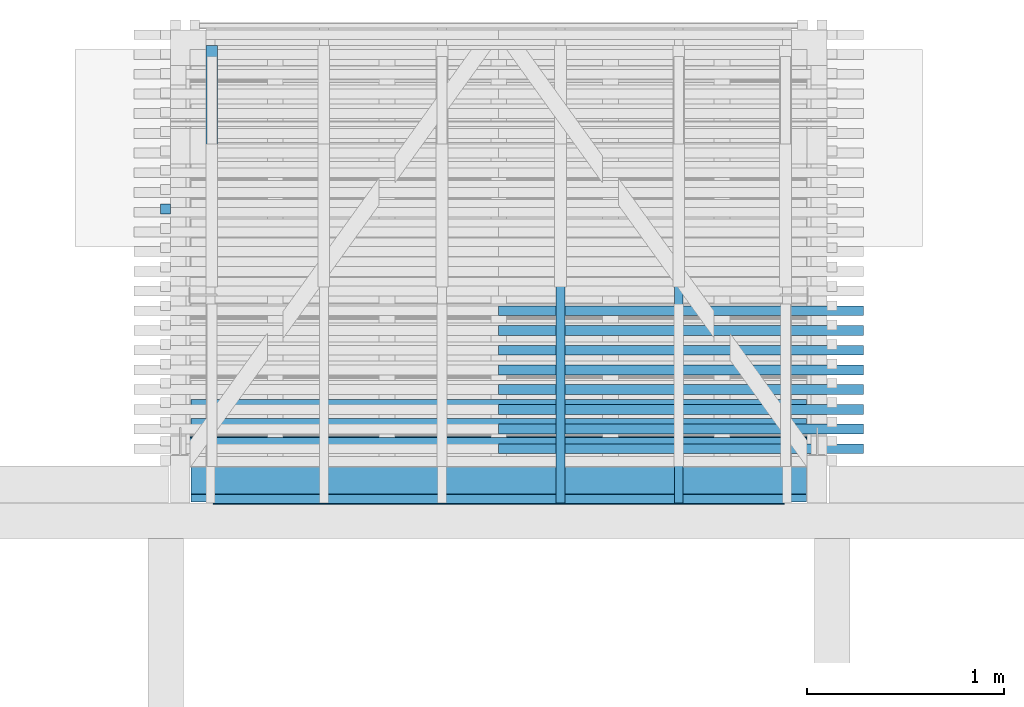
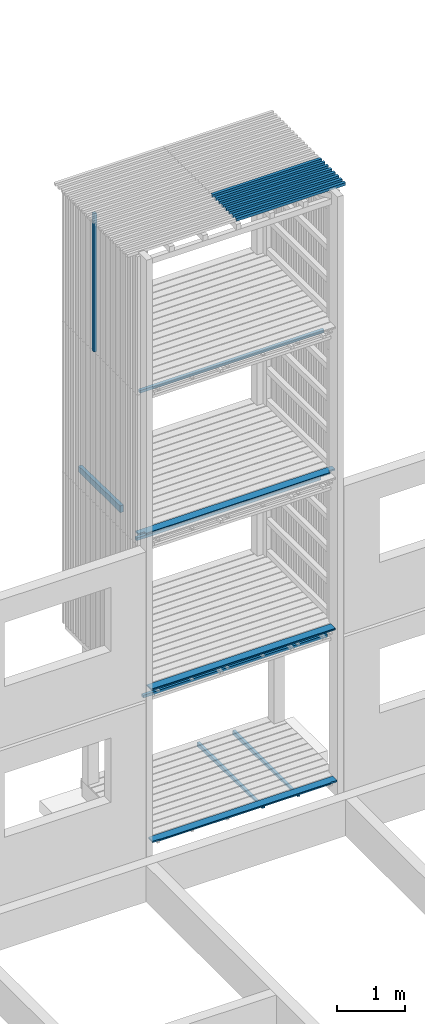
# One storey, part 38 of 182: 18 beams.
"""IFC2X3 building model written with IfcOpenShell, lengths in metres."""

from ifc_helpers import new_model, si_unit, frame, origin, place, context, project, spatial, faceted_brep, element, save


model = new_model("IFC2X3")

# Units and contexts
model_context = context("Model", 3, precision=1e-06, world=origin())
ifc_project = project(units=[si_unit("LENGTHUNIT", "METRE"), si_unit("PLANEANGLEUNIT", "RADIAN")], contexts=[model_context])

# Site, building, storey
site = spatial("IfcSite", under=ifc_project, CompositionType="ELEMENT")
building = spatial("IfcBuilding", under=site, CompositionType="ELEMENT")
storey = spatial("IfcBuildingStorey", under=building, Name="vs", CompositionType="ELEMENT", Elevation=-0.85)

# Beams
placement = place(None, origin())
beam_1_placement = place(placement, frame((13.299197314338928, 11.96144133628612, 7.974999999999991), z_axis=(1.0, 0.0, 0.0), x_axis=(0.0, 0.0, 1.0)))
element("IfcBeam", 1, at=beam_1_placement, inside=storey, Name="Bardage", context=model_context, shape_type="Brep", body=[
    faceted_brep([(0.0, -0.024999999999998, 0.025000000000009), (0.0, 0.024999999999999, 0.025000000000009), (0.0, 0.024999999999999, -0.025000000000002), (0.0, -0.024999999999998, -0.025000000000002), (2.479999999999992, 0.024999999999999, -0.025000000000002), (2.479999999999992, 0.024999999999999, 0.025000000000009), (2.479999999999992, -0.024999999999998, 0.025000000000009), (2.479999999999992, -0.024999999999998, -0.025000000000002), (0.0, 0.024999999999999, 0.025000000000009), (0.0, -0.024999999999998, 0.025000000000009), (2.479999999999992, -0.024999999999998, 0.025000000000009), (2.479999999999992, 0.024999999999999, 0.025000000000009), (0.0, 0.024999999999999, -0.025000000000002), (0.0, 0.024999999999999, 0.025000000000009), (2.479999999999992, 0.024999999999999, 0.025000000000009), (2.479999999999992, 0.024999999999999, -0.025000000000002), (0.0, -0.024999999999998, -0.025000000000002), (0.0, 0.024999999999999, -0.025000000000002), (2.479999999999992, 0.024999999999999, -0.025000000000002), (2.479999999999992, -0.024999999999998, -0.025000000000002), (2.479999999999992, -0.024999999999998, 0.025000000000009), (0.0, -0.024999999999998, 0.025000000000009), (0.0, -0.024999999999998, -0.025000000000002), (2.479999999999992, -0.024999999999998, -0.025000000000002)], [[[0, 1, 2, 3]], [[4, 5, 6, 7]], [[8, 9, 10, 11]], [[12, 13, 14, 15]], [[16, 17, 18, 19]], [[20, 21, 22, 23]]]),
])
beam_2_placement = place(placement, frame((13.534197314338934, 11.565077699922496, 5.304249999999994), z_axis=(0.0, 0.0, 1.0), x_axis=(0.0, 1.0, 0.0)))
element("IfcBeam", 2, at=beam_2_placement, inside=storey, Name="Solive", context=model_context, shape_type="Brep", body=[
    faceted_brep([(0.0, -0.030000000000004, -0.061849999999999), (1.225000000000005, -0.030000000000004, -0.061849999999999), (1.225000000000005, -0.030000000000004, 0.03735), (0.0, -0.030000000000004, 0.06185), (0.0, 0.029999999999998, -0.061849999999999), (1.225000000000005, 0.029999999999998, -0.061849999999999), (1.225000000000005, -0.030000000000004, -0.061849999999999), (0.0, -0.030000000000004, -0.061849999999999), (0.0, 0.029999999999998, 0.061850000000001), (0.0, 0.029999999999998, -0.061849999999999), (0.0, -0.030000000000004, -0.061849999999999), (0.0, -0.030000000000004, 0.06185), (1.225000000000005, 0.029999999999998, -0.061849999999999), (0.0, 0.029999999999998, -0.061849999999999), (0.0, 0.029999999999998, 0.061850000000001), (1.225000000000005, 0.029999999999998, 0.03735), (1.225000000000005, -0.030000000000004, 0.03735), (1.225000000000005, -0.030000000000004, -0.061849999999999), (1.225000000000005, 0.029999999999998, -0.061849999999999), (1.225000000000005, 0.029999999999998, 0.03735), (0.0, -0.030000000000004, 0.06185), (1.225000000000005, -0.030000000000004, 0.03735), (1.225000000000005, 0.029999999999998, 0.03735), (0.0, 0.029999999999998, 0.061850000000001)], [[[0, 1, 2, 3]], [[4, 5, 6, 7]], [[8, 9, 10, 11]], [[12, 13, 14, 15]], [[16, 17, 18, 19]], [[20, 21, 22, 23]]]),
])
beam_3_placement = place(placement, frame((16.839197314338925, 10.945077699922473, 10.47999999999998), z_axis=(0.0, 0.0, 1.0), x_axis=(-1.0, 2e-15, 0.0)))
element("IfcBeam", 3, at=beam_3_placement, inside=storey, Name="Bardage", context=model_context, shape_type="Brep", body=[
    faceted_brep([(-3e-15, 0.024999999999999, 0.025000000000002), (-3e-15, -0.025000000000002, 0.025000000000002), (1.849999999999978, -0.024999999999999, 0.025000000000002), (1.849999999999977, 0.025000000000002, 0.025000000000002), (1.849999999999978, -0.024999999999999, 0.025000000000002), (-3e-15, -0.025000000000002, 0.025000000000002), (-3e-15, -0.025000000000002, -0.024999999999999), (1.849999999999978, -0.024999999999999, -0.024999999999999), (-3e-15, -0.025000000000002, 0.025000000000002), (-3e-15, 0.024999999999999, 0.025000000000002), (-3e-15, 0.024999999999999, -0.024999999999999), (-3e-15, -0.025000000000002, -0.024999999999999), (-3e-15, 0.024999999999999, -0.024999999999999), (-3e-15, 0.024999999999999, 0.025000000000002), (1.849999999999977, 0.025000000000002, 0.025000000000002), (1.849999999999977, 0.025000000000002, -0.024999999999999), (1.849999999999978, -0.024999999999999, -0.024999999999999), (-3e-15, -0.025000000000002, -0.024999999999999), (-3e-15, 0.024999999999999, -0.024999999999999), (1.849999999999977, 0.025000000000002, -0.024999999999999), (1.849999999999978, -0.024999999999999, 0.025000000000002), (1.849999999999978, -0.024999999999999, -0.024999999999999), (1.849999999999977, 0.025000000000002, -0.024999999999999), (1.849999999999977, 0.025000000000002, 0.025000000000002)], [[[0, 1, 2, 3]], [[4, 5, 6, 7]], [[8, 9, 10, 11]], [[12, 13, 14, 15]], [[16, 17, 18, 19]], [[20, 21, 22, 23]]]),
])
beam_4_placement = place(placement, frame((16.839197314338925, 11.445077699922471, 10.47999999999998), z_axis=(0.0, 0.0, 1.0), x_axis=(-1.0, 2e-15, 0.0)))
element("IfcBeam", 4, at=beam_4_placement, inside=storey, Name="Bardage", context=model_context, shape_type="Brep", body=[
    faceted_brep([(-3e-15, 0.024999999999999, 0.025000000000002), (-3e-15, -0.025000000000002, 0.025000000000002), (1.849999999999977, -0.024999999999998, 0.025000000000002), (1.849999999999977, 0.025000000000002, 0.025000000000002), (1.849999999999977, -0.024999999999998, 0.025000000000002), (-3e-15, -0.025000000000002, 0.025000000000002), (-3e-15, -0.025000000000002, -0.024999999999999), (1.849999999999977, -0.024999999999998, -0.024999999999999), (-3e-15, -0.025000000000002, 0.025000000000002), (-3e-15, 0.024999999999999, 0.025000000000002), (-3e-15, 0.024999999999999, -0.024999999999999), (-3e-15, -0.025000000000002, -0.024999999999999), (-3e-15, 0.024999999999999, -0.024999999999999), (-3e-15, 0.024999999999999, 0.025000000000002), (1.849999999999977, 0.025000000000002, 0.025000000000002), (1.849999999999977, 0.025000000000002, -0.024999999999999), (1.849999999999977, -0.024999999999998, -0.024999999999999), (-3e-15, -0.025000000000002, -0.024999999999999), (-3e-15, 0.024999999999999, -0.024999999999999), (1.849999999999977, 0.025000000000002, -0.024999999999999), (1.849999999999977, -0.024999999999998, 0.025000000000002), (1.849999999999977, -0.024999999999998, -0.024999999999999), (1.849999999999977, 0.025000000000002, -0.024999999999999), (1.849999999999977, 0.025000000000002, 0.025000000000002)], [[[0, 1, 2, 3]], [[4, 5, 6, 7]], [[8, 9, 10, 11]], [[12, 13, 14, 15]], [[16, 17, 18, 19]], [[20, 21, 22, 23]]]),
])
beam_5_placement = place(placement, frame((16.839197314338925, 11.345077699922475, 10.47999999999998), z_axis=(0.0, 0.0, 1.0), x_axis=(-1.0, 0.0, 0.0)))
element("IfcBeam", 5, at=beam_5_placement, inside=storey, Name="Bardage", context=model_context, shape_type="Brep", body=[
    faceted_brep([(-3e-15, 0.025000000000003, 0.025000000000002), (-3e-15, -0.024999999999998, 0.025000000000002), (1.849999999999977, -0.024999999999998, 0.025000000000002), (1.849999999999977, 0.024999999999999, 0.025000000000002), (1.849999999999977, -0.024999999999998, 0.025000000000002), (-3e-15, -0.024999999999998, 0.025000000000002), (-3e-15, -0.024999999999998, -0.024999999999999), (1.849999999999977, -0.024999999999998, -0.024999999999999), (-3e-15, -0.024999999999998, 0.025000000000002), (-3e-15, 0.025000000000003, 0.025000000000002), (-3e-15, 0.025000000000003, -0.024999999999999), (-3e-15, -0.024999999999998, -0.024999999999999), (-3e-15, 0.025000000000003, -0.024999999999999), (-3e-15, 0.025000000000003, 0.025000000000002), (1.849999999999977, 0.024999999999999, 0.025000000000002), (1.849999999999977, 0.024999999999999, -0.024999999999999), (1.849999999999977, -0.024999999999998, -0.024999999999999), (-3e-15, -0.024999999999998, -0.024999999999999), (-3e-15, 0.025000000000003, -0.024999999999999), (1.849999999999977, 0.024999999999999, -0.024999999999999), (1.849999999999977, -0.024999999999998, 0.025000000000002), (1.849999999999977, -0.024999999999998, -0.024999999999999), (1.849999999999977, 0.024999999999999, -0.024999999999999), (1.849999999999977, 0.024999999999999, 0.025000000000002)], [[[0, 1, 2, 3]], [[4, 5, 6, 7]], [[8, 9, 10, 11]], [[12, 13, 14, 15]], [[16, 17, 18, 19]], [[20, 21, 22, 23]]]),
])
beam_6_placement = place(placement, frame((16.839197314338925, 11.045077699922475, 10.47999999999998), z_axis=(0.0, 0.0, 1.0), x_axis=(-1.0, 0.0, 0.0)))
element("IfcBeam", 6, at=beam_6_placement, inside=storey, Name="Bardage", context=model_context, shape_type="Brep", body=[
    faceted_brep([(-3e-15, 0.025000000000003, 0.025000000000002), (-3e-15, -0.024999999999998, 0.025000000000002), (1.849999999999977, -0.025000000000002, 0.025000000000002), (1.849999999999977, 0.025000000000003, 0.025000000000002), (1.849999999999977, -0.025000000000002, 0.025000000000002), (-3e-15, -0.024999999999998, 0.025000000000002), (-3e-15, -0.024999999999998, -0.024999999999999), (1.849999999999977, -0.025000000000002, -0.024999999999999), (-3e-15, -0.024999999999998, 0.025000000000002), (-3e-15, 0.025000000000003, 0.025000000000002), (-3e-15, 0.025000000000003, -0.024999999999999), (-3e-15, -0.024999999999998, -0.024999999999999), (-3e-15, 0.025000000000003, -0.024999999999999), (-3e-15, 0.025000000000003, 0.025000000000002), (1.849999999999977, 0.025000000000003, 0.025000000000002), (1.849999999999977, 0.025000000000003, -0.024999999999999), (1.849999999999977, -0.025000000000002, -0.024999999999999), (-3e-15, -0.024999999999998, -0.024999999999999), (-3e-15, 0.025000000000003, -0.024999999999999), (1.849999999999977, 0.025000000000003, -0.024999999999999), (1.849999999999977, -0.025000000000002, 0.025000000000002), (1.849999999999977, -0.025000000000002, -0.024999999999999), (1.849999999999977, 0.025000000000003, -0.024999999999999), (1.849999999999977, 0.025000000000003, 0.025000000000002)], [[[0, 1, 2, 3]], [[4, 5, 6, 7]], [[8, 9, 10, 11]], [[12, 13, 14, 15]], [[16, 17, 18, 19]], [[20, 21, 22, 23]]]),
])
beam_7_placement = place(placement, frame((16.839197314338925, 11.245077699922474, 10.47999999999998), z_axis=(0.0, 0.0, 1.0), x_axis=(-1.0, 0.0, 0.0)))
element("IfcBeam", 7, at=beam_7_placement, inside=storey, Name="Bardage", context=model_context, shape_type="Brep", body=[
    faceted_brep([(-3e-15, 0.024999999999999, 0.025000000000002), (-3e-15, -0.024999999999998, 0.025000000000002), (1.849999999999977, -0.024999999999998, 0.025000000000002), (1.849999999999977, 0.024999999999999, 0.025000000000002), (1.849999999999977, -0.024999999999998, 0.025000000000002), (-3e-15, -0.024999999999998, 0.025000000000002), (-3e-15, -0.024999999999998, -0.024999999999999), (1.849999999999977, -0.024999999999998, -0.024999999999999), (-3e-15, -0.024999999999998, 0.025000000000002), (-3e-15, 0.024999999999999, 0.025000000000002), (-3e-15, 0.024999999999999, -0.024999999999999), (-3e-15, -0.024999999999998, -0.024999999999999), (-3e-15, 0.024999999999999, -0.024999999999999), (-3e-15, 0.024999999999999, 0.025000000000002), (1.849999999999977, 0.024999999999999, 0.025000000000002), (1.849999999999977, 0.024999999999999, -0.024999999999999), (1.849999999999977, -0.024999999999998, -0.024999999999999), (-3e-15, -0.024999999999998, -0.024999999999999), (-3e-15, 0.024999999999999, -0.024999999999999), (1.849999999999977, 0.024999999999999, -0.024999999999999), (1.849999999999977, -0.024999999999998, 0.025000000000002), (1.849999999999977, -0.024999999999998, -0.024999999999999), (1.849999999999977, 0.024999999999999, -0.024999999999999), (1.849999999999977, 0.024999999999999, 0.025000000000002)], [[[0, 1, 2, 3]], [[4, 5, 6, 7]], [[8, 9, 10, 11]], [[12, 13, 14, 15]], [[16, 17, 18, 19]], [[20, 21, 22, 23]]]),
])
beam_8_placement = place(placement, frame((15.302197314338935, 10.4700776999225, -0.015599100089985), z_axis=(0.0, 0.0, 1.0), x_axis=(0.0, 1.0, 0.0)))
element("IfcBeam", 8, at=beam_8_placement, inside=storey, Name="Calage", context=model_context, shape_type="Brep", body=[
    faceted_brep([(0.0, 0.02249999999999, 0.002600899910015), (1.91000000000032, 0.02249999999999, -0.035599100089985), (1.91000000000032, -0.022499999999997, -0.035599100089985), (0.0, -0.022499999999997, 0.002600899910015), (0.0, -0.022499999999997, 0.035599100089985), (0.0, 0.02249999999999, 0.035599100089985), (0.0, 0.02249999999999, 0.002600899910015), (0.0, -0.022499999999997, 0.002600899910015), (0.0, 0.02249999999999, 0.035599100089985), (0.0, -0.022499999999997, 0.035599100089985), (1.91000000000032, -0.022499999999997, 0.035599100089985), (1.91000000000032, 0.02249999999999, 0.035599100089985), (0.0, 0.02249999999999, 0.002600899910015), (0.0, 0.02249999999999, 0.035599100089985), (1.91000000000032, 0.02249999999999, 0.035599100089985), (1.91000000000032, 0.02249999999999, -0.035599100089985), (1.91000000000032, 0.02249999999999, -0.035599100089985), (1.91000000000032, 0.02249999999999, 0.035599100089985), (1.91000000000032, -0.022499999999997, 0.035599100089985), (1.91000000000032, -0.022499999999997, -0.035599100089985), (1.91000000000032, -0.022499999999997, -0.035599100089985), (1.91000000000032, -0.022499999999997, 0.035599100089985), (0.0, -0.022499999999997, 0.035599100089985), (0.0, -0.022499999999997, 0.002600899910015)], [[[0, 1, 2, 3]], [[4, 5, 6, 7]], [[8, 9, 10, 11]], [[12, 13, 14, 15]], [[16, 17, 18, 19]], [[20, 21, 22, 23]]]),
])
beam_9_placement = place(placement, frame((15.90219731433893, 10.4700776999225, -0.015599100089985), z_axis=(0.0, 0.0, 1.0), x_axis=(0.0, 1.0, 0.0)))
element("IfcBeam", 9, at=beam_9_placement, inside=storey, Name="Calage", context=model_context, shape_type="Brep", body=[
    faceted_brep([(0.0, 0.022499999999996, 0.002600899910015), (1.91000000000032, 0.022499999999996, -0.035599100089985), (1.91000000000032, -0.022500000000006, -0.035599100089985), (0.0, -0.022500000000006, 0.002600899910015), (0.0, -0.022500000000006, 0.035599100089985), (0.0, 0.022499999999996, 0.035599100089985), (0.0, 0.022499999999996, 0.002600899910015), (0.0, -0.022500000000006, 0.002600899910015), (0.0, 0.022499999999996, 0.035599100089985), (0.0, -0.022500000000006, 0.035599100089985), (1.91000000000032, -0.022500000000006, 0.035599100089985), (1.91000000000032, 0.022499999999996, 0.035599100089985), (0.0, 0.022499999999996, 0.002600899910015), (0.0, 0.022499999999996, 0.035599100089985), (1.91000000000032, 0.022499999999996, 0.035599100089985), (1.91000000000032, 0.022499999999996, -0.035599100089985), (1.91000000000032, 0.022499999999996, -0.035599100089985), (1.91000000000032, 0.022499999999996, 0.035599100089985), (1.91000000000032, -0.022500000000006, 0.035599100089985), (1.91000000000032, -0.022500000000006, -0.035599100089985), (1.91000000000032, -0.022500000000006, -0.035599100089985), (1.91000000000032, -0.022500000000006, 0.035599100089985), (0.0, -0.022500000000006, 0.035599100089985), (0.0, -0.022500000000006, 0.002600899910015)], [[[0, 1, 2, 3]], [[4, 5, 6, 7]], [[8, 9, 10, 11]], [[12, 13, 14, 15]], [[16, 17, 18, 19]], [[20, 21, 22, 23]]]),
])
beam_10_placement = place(placement, frame((16.839197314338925, 10.845077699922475, 10.47999999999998), z_axis=(0.0, 0.0, 1.0), x_axis=(-1.0, 0.0, 0.0)))
element("IfcBeam", 10, at=beam_10_placement, inside=storey, Name="Bardage", context=model_context, shape_type="Brep", body=[
    faceted_brep([(-3e-15, 0.025000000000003, 0.025000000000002), (-3e-15, -0.024999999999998, 0.025000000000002), (1.849999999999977, -0.024999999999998, 0.025000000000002), (1.849999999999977, 0.025000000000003, 0.025000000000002), (1.849999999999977, -0.024999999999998, 0.025000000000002), (-3e-15, -0.024999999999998, 0.025000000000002), (-3e-15, -0.024999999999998, -0.024999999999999), (1.849999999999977, -0.024999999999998, -0.024999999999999), (-3e-15, -0.024999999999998, 0.025000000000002), (-3e-15, 0.025000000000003, 0.025000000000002), (-3e-15, 0.025000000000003, -0.024999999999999), (-3e-15, -0.024999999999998, -0.024999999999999), (-3e-15, 0.025000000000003, -0.024999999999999), (-3e-15, 0.025000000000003, 0.025000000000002), (1.849999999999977, 0.025000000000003, 0.025000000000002), (1.849999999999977, 0.025000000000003, -0.024999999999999), (1.849999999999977, -0.024999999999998, -0.024999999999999), (-3e-15, -0.024999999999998, -0.024999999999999), (-3e-15, 0.025000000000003, -0.024999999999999), (1.849999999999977, 0.025000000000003, -0.024999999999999), (1.849999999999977, -0.024999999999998, 0.025000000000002), (1.849999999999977, -0.024999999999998, -0.024999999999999), (1.849999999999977, 0.025000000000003, -0.024999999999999), (1.849999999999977, 0.025000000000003, 0.025000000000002)], [[[0, 1, 2, 3]], [[4, 5, 6, 7]], [[8, 9, 10, 11]], [[12, 13, 14, 15]], [[16, 17, 18, 19]], [[20, 21, 22, 23]]]),
])
beam_11_placement = place(placement, frame((16.654197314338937, 10.734577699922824, 5.433499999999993), z_axis=(0.0, 0.0, 1.0), x_axis=(-1.0, 0.0, 0.0)))
element("IfcBeam", 11, at=beam_11_placement, inside=storey, Name="Caillebotis", context=model_context, shape_type="Brep", body=[
    faceted_brep([(0.0, -0.072499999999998, -0.0135), (0.0, -0.072499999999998, 0.008500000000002), (0.0, -0.067499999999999, 0.0135), (0.0, 0.019500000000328, 0.0135), (0.0, 0.019500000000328, -0.0135), (3.329999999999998, -0.067499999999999, 0.0135), (3.329999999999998, 0.019500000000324, 0.0135), (3.225000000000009, 0.019500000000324, 0.0135), (3.225000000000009, 0.067500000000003, 0.0135), (0.105000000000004, 0.067500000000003, 0.0135), (0.105000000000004, 0.019500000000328, 0.0135), (0.0, 0.019500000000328, 0.0135), (0.0, -0.067499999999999, 0.0135), (0.105000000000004, 0.019500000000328, 0.0135), (0.105000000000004, 0.067500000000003, 0.0135), (0.105000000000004, 0.072500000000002, 0.008500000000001), (0.105000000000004, 0.072500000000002, -0.0135), (0.105000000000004, 0.019500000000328, -0.0135), (0.105000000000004, 0.072500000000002, 0.008500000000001), (0.105000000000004, 0.067500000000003, 0.0135), (3.225000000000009, 0.067500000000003, 0.0135), (3.225000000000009, 0.072500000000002, 0.0085), (0.105000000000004, 0.072500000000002, -0.0135), (0.105000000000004, 0.072500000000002, 0.008500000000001), (3.225000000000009, 0.072500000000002, 0.0085), (3.225000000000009, 0.072500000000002, -0.0135), (3.225000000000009, 0.072500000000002, -0.0135), (3.225000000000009, 0.072500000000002, 0.0085), (3.225000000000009, 0.067500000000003, 0.0135), (3.225000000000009, 0.019500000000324, 0.0135), (3.225000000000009, 0.019500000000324, -0.0135), (3.225000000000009, 0.019500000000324, -0.0135), (3.225000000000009, 0.019500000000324, 0.0135), (3.329999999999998, 0.019500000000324, 0.0135), (3.329999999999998, 0.019500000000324, -0.0135), (3.329999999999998, -0.072499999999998, 0.008500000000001), (3.329999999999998, -0.072499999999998, -0.0135), (3.329999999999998, 0.019500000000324, -0.0135), (3.329999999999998, 0.019500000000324, 0.0135), (3.329999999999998, -0.067499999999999, 0.0135), (3.329999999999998, -0.072499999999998, 0.008500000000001), (3.329999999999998, -0.067499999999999, 0.0135), (0.0, -0.067499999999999, 0.0135), (0.0, -0.072499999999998, 0.008500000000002), (3.329999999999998, -0.072499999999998, -0.0135), (3.329999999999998, -0.072499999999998, 0.008500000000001), (0.0, -0.072499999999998, 0.008500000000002), (0.0, -0.072499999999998, -0.0135), (0.105000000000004, 0.019500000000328, -0.0135), (0.105000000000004, 0.072500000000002, -0.0135), (3.225000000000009, 0.072500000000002, -0.0135), (3.225000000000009, 0.019500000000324, -0.0135), (3.329999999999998, 0.019500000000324, -0.0135), (3.329999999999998, -0.072499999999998, -0.0135), (0.0, -0.072499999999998, -0.0135), (0.0, 0.019500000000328, -0.0135), (0.0, 0.019500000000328, 0.0135), (0.105000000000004, 0.019500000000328, 0.0135), (0.105000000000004, 0.019500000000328, -0.0135), (0.0, 0.019500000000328, -0.0135)], [[[0, 1, 2, 3, 4]], [[5, 6, 7, 8, 9, 10, 11, 12]], [[13, 14, 15, 16, 17]], [[18, 19, 20, 21]], [[22, 23, 24, 25]], [[26, 27, 28, 29, 30]], [[31, 32, 33, 34]], [[35, 36, 37, 38, 39]], [[40, 41, 42, 43]], [[44, 45, 46, 47]], [[48, 49, 50, 51, 52, 53, 54, 55]], [[56, 57, 58, 59]]]),
])
beam_12_placement = place(placement, frame((16.549197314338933, 10.776952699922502, 2.467999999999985), z_axis=(0.0, 0.0, 1.0), x_axis=(-1.0, 0.0, 0.0)))
element("IfcBeam", 12, at=beam_12_placement, inside=storey, Name="Bardage", context=model_context, shape_type="Brep", body=[
    faceted_brep([(3.120000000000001, 0.025000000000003, -0.025), (3.120000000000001, -0.024999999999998, -0.025), (-3e-15, -0.024999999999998, -0.025), (-3e-15, 0.025000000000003, -0.025), (-3e-15, -0.024999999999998, -0.025), (3.120000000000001, -0.024999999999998, -0.025), (3.120000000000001, -0.024999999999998, 0.025), (-3e-15, -0.024999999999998, 0.025), (3.120000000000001, -0.024999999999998, -0.025), (3.120000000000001, 0.025000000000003, -0.025), (3.120000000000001, 0.025000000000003, 0.025), (3.120000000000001, -0.024999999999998, 0.025), (3.120000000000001, 0.025000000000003, 0.025), (3.120000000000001, 0.025000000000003, -0.025), (-3e-15, 0.025000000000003, -0.025), (-3e-15, 0.025000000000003, 0.025), (-3e-15, -0.024999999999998, 0.025), (3.120000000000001, -0.024999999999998, 0.025), (3.120000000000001, 0.025000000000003, 0.025), (-3e-15, 0.025000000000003, 0.025), (-3e-15, -0.024999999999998, -0.025), (-3e-15, -0.024999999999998, 0.025), (-3e-15, 0.025000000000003, 0.025), (-3e-15, 0.025000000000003, -0.025)], [[[0, 1, 2, 3]], [[4, 5, 6, 7]], [[8, 9, 10, 11]], [[12, 13, 14, 15]], [[16, 17, 18, 19]], [[20, 21, 22, 23]]]),
])
beam_13_placement = place(placement, frame((16.549197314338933, 10.584577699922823, 2.733499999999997), z_axis=(0.0, 0.0, 1.0), x_axis=(-1.0, 0.0, 0.0)))
element("IfcBeam", 13, at=beam_13_placement, inside=storey, Name="Caillebotis", context=model_context, shape_type="Brep", body=[
    faceted_brep([(-3e-15, -0.072500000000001, 0.008500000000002), (-3e-15, -0.067500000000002, 0.0135), (-3e-15, 0.067499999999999, 0.0135), (-3e-15, 0.072499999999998, 0.0085), (-3e-15, 0.072499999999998, -0.0135), (-3e-15, -0.072500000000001, -0.0135), (-3e-15, 0.072499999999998, -0.0135), (-3e-15, 0.072499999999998, 0.0085), (3.120000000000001, 0.072499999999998, 0.0085), (3.120000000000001, 0.072499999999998, -0.0135), (-3e-15, -0.072500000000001, -0.0135), (-3e-15, 0.072499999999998, -0.0135), (3.120000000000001, 0.072499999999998, -0.0135), (3.120000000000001, -0.072500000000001, -0.0135), (-3e-15, -0.072500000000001, 0.008500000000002), (-3e-15, -0.072500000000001, -0.0135), (3.120000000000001, -0.072500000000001, -0.0135), (3.120000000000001, -0.072500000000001, 0.008500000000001), (-3e-15, -0.067500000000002, 0.0135), (-3e-15, -0.072500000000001, 0.008500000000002), (3.120000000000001, -0.072500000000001, 0.008500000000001), (3.120000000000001, -0.067500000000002, 0.0135), (-3e-15, 0.067499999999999, 0.0135), (-3e-15, -0.067500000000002, 0.0135), (3.120000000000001, -0.067500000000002, 0.0135), (3.120000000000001, 0.067499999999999, 0.0135), (-3e-15, 0.072499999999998, 0.0085), (-3e-15, 0.067499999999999, 0.0135), (3.120000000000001, 0.067499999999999, 0.0135), (3.120000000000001, 0.072499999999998, 0.0085), (3.120000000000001, -0.072500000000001, -0.0135), (3.120000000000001, 0.072499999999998, -0.0135), (3.120000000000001, 0.072499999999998, 0.0085), (3.120000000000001, 0.067499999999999, 0.0135), (3.120000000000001, -0.067500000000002, 0.0135), (3.120000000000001, -0.072500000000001, 0.008500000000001)], [[[0, 1, 2, 3, 4, 5]], [[6, 7, 8, 9]], [[10, 11, 12, 13]], [[14, 15, 16, 17]], [[18, 19, 20, 21]], [[22, 23, 24, 25]], [[26, 27, 28, 29]], [[30, 31, 32, 33, 34, 35]]]),
])
beam_14_placement = place(placement, frame((16.839197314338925, 10.745077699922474, 10.47999999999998), z_axis=(0.0, 0.0, 1.0), x_axis=(-1.0, 0.0, 0.0)))
element("IfcBeam", 14, at=beam_14_placement, inside=storey, Name="Bardage", context=model_context, shape_type="Brep", body=[
    faceted_brep([(-3e-15, 0.024999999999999, 0.025000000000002), (-3e-15, -0.024999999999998, 0.025000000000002), (1.849999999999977, -0.025000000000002, 0.025000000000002), (1.849999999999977, 0.024999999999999, 0.025000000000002), (1.849999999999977, -0.025000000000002, 0.025000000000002), (-3e-15, -0.024999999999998, 0.025000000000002), (-3e-15, -0.024999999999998, -0.024999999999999), (1.849999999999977, -0.025000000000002, -0.024999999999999), (-3e-15, -0.024999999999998, 0.025000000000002), (-3e-15, 0.024999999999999, 0.025000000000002), (-3e-15, 0.024999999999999, -0.024999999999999), (-3e-15, -0.024999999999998, -0.024999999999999), (-3e-15, 0.024999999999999, -0.024999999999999), (-3e-15, 0.024999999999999, 0.025000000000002), (1.849999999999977, 0.024999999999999, 0.025000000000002), (1.849999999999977, 0.024999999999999, -0.024999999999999), (1.849999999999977, -0.025000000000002, -0.024999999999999), (-3e-15, -0.024999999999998, -0.024999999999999), (-3e-15, 0.024999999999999, -0.024999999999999), (1.849999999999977, 0.024999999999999, -0.024999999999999), (1.849999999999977, -0.025000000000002, 0.025000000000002), (1.849999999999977, -0.025000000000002, -0.024999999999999), (1.849999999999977, 0.024999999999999, -0.024999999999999), (1.849999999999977, 0.024999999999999, 0.025000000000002)], [[[0, 1, 2, 3]], [[4, 5, 6, 7]], [[8, 9, 10, 11]], [[12, 13, 14, 15]], [[16, 17, 18, 19]], [[20, 21, 22, 23]]]),
])
beam_15_placement = place(placement, frame((16.549197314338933, 10.873827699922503, 7.867999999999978), z_axis=(0.0, 0.0, 1.0), x_axis=(-1.0, 0.0, 0.0)))
element("IfcBeam", 15, at=beam_15_placement, inside=storey, Name="Bardage", context=model_context, shape_type="Brep", body=[
    faceted_brep([(3.120000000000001, 0.025000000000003, -0.025000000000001), (3.120000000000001, -0.024999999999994, -0.025000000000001), (-3e-15, -0.024999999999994, -0.025000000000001), (-3e-15, 0.025000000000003, -0.025000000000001), (-3e-15, -0.024999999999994, -0.025000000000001), (3.120000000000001, -0.024999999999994, -0.025000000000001), (3.120000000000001, -0.024999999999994, 0.024999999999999), (-3e-15, -0.024999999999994, 0.024999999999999), (3.120000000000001, -0.024999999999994, -0.025000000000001), (3.120000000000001, 0.025000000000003, -0.025000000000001), (3.120000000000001, 0.025000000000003, 0.024999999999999), (3.120000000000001, -0.024999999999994, 0.024999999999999), (3.120000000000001, 0.025000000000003, 0.024999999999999), (3.120000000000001, 0.025000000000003, -0.025000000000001), (-3e-15, 0.025000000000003, -0.025000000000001), (-3e-15, 0.025000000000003, 0.024999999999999), (-3e-15, -0.024999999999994, 0.024999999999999), (3.120000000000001, -0.024999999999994, 0.024999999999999), (3.120000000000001, 0.025000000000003, 0.024999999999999), (-3e-15, 0.025000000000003, 0.024999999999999), (-3e-15, -0.024999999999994, -0.025000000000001), (-3e-15, -0.024999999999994, 0.024999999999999), (-3e-15, 0.025000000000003, 0.024999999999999), (-3e-15, 0.025000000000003, -0.025000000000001)], [[[0, 1, 2, 3]], [[4, 5, 6, 7]], [[8, 9, 10, 11]], [[12, 13, 14, 15]], [[16, 17, 18, 19]], [[20, 21, 22, 23]]]),
])
beam_16_placement = place(placement, frame((16.549197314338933, 10.53457769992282, 0.033500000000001), z_axis=(0.0, 0.0, 1.0), x_axis=(-1.0, 0.0, 0.0)))
element("IfcBeam", 16, at=beam_16_placement, inside=storey, Name="Caillebotis", context=model_context, shape_type="Brep", body=[
    faceted_brep([(0.109999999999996, 0.072499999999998, 0.0085), (3.010000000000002, 0.072499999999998, 0.0085), (3.010000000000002, 0.072499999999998, -0.013500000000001), (0.109999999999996, 0.072499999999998, -0.0135), (0.109999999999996, 0.067499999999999, 0.0135), (3.010000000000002, 0.067499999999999, 0.0135), (3.010000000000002, 0.072499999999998, 0.0085), (0.109999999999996, 0.072499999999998, 0.0085), (0.109999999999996, 0.05950000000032, 0.0135), (0.109999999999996, 0.067499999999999, 0.0135), (0.109999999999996, 0.072499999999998, 0.0085), (0.109999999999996, 0.072499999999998, -0.0135), (0.109999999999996, 0.05950000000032, -0.0135), (0.109999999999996, 0.05950000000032, 0.0135), (0.109999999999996, 0.05950000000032, -0.0135), (-3e-15, 0.05950000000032, -0.0135), (-3e-15, 0.05950000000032, 0.0135), (-3e-15, -0.072500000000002, 0.008500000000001), (3.120000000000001, -0.072500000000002, 0.008500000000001), (3.120000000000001, -0.067500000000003, 0.0135), (-3e-15, -0.067500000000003, 0.0135), (-3e-15, -0.072500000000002, -0.0135), (-3e-15, -0.072500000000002, 0.008500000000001), (-3e-15, -0.067500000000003, 0.0135), (-3e-15, 0.05950000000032, 0.0135), (-3e-15, 0.05950000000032, -0.0135), (3.010000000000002, 0.067499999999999, 0.0135), (0.109999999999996, 0.067499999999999, 0.0135), (0.109999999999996, 0.05950000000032, 0.0135), (-3e-15, 0.05950000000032, 0.0135), (-3e-15, -0.067500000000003, 0.0135), (3.120000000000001, -0.067500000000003, 0.0135), (3.120000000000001, 0.05950000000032, 0.0135), (3.010000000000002, 0.05950000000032, 0.0135), (3.010000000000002, 0.05950000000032, -0.013500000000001), (3.010000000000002, 0.072499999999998, -0.013500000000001), (3.010000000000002, 0.072499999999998, 0.0085), (3.010000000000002, 0.067499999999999, 0.0135), (3.010000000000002, 0.05950000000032, 0.0135), (3.010000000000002, 0.05950000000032, -0.013500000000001), (3.010000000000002, 0.05950000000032, 0.0135), (3.120000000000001, 0.05950000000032, 0.0135), (3.120000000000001, 0.05950000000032, -0.013500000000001), (-3e-15, -0.072500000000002, -0.0135), (-3e-15, 0.05950000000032, -0.0135), (0.109999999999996, 0.05950000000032, -0.0135), (0.109999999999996, 0.072499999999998, -0.0135), (3.010000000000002, 0.072499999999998, -0.013500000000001), (3.010000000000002, 0.05950000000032, -0.013500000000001), (3.120000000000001, 0.05950000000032, -0.013500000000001), (3.120000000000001, -0.072500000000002, -0.013500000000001), (-3e-15, -0.072500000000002, 0.008500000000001), (-3e-15, -0.072500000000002, -0.0135), (3.120000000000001, -0.072500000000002, -0.013500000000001), (3.120000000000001, -0.072500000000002, 0.008500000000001), (3.120000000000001, 0.05950000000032, 0.0135), (3.120000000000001, -0.067500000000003, 0.0135), (3.120000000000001, -0.072500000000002, 0.008500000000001), (3.120000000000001, -0.072500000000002, -0.013500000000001), (3.120000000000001, 0.05950000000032, -0.013500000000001)], [[[0, 1, 2, 3]], [[4, 5, 6, 7]], [[8, 9, 10, 11, 12]], [[13, 14, 15, 16]], [[17, 18, 19, 20]], [[21, 22, 23, 24, 25]], [[26, 27, 28, 29, 30, 31, 32, 33]], [[34, 35, 36, 37, 38]], [[39, 40, 41, 42]], [[43, 44, 45, 46, 47, 48, 49, 50]], [[51, 52, 53, 54]], [[55, 56, 57, 58, 59]]]),
])
beam_17_placement = place(placement, frame((16.549197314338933, 10.970702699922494, 5.167999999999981), z_axis=(0.0, 0.0, 1.0), x_axis=(-1.0, 0.0, 0.0)))
element("IfcBeam", 17, at=beam_17_placement, inside=storey, Name="Bardage", context=model_context, shape_type="Brep", body=[
    faceted_brep([(3.120000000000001, 0.024999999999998, -0.025), (3.120000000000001, -0.025000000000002, -0.025), (-3e-15, -0.025000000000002, -0.025), (-3e-15, 0.024999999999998, -0.025), (-3e-15, -0.025000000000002, -0.025), (3.120000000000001, -0.025000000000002, -0.025), (3.120000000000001, -0.025000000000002, 0.025000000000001), (-3e-15, -0.025000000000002, 0.025000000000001), (3.120000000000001, -0.025000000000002, -0.025), (3.120000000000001, 0.024999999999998, -0.025), (3.120000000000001, 0.024999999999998, 0.025000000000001), (3.120000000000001, -0.025000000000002, 0.025000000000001), (3.120000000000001, 0.024999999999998, 0.025000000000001), (3.120000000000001, 0.024999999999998, -0.025), (-3e-15, 0.024999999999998, -0.025), (-3e-15, 0.024999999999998, 0.025000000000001), (-3e-15, -0.025000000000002, 0.025000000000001), (3.120000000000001, -0.025000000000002, 0.025000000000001), (3.120000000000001, 0.024999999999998, 0.025000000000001), (-3e-15, 0.024999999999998, 0.025000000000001), (-3e-15, -0.025000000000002, -0.025), (-3e-15, -0.025000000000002, 0.025000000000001), (-3e-15, 0.024999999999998, 0.025000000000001), (-3e-15, 0.024999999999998, -0.025)], [[[0, 1, 2, 3]], [[4, 5, 6, 7]], [[8, 9, 10, 11]], [[12, 13, 14, 15]], [[16, 17, 18, 19]], [[20, 21, 22, 23]]]),
])
beam_18_placement = place(placement, frame((16.839197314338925, 11.145077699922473, 10.47999999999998), z_axis=(0.0, 0.0, 1.0), x_axis=(-1.0, 0.0, 0.0)))
element("IfcBeam", 18, at=beam_18_placement, inside=storey, Name="Bardage", context=model_context, shape_type="Brep", body=[
    faceted_brep([(-3e-15, 0.024999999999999, 0.025000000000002), (-3e-15, -0.025000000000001, 0.025000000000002), (1.849999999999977, -0.025000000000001, 0.025000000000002), (1.849999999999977, 0.024999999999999, 0.025000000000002), (1.849999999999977, -0.025000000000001, 0.025000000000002), (-3e-15, -0.025000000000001, 0.025000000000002), (-3e-15, -0.025000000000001, -0.024999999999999), (1.849999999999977, -0.025000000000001, -0.024999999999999), (-3e-15, -0.025000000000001, 0.025000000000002), (-3e-15, 0.024999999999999, 0.025000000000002), (-3e-15, 0.024999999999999, -0.024999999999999), (-3e-15, -0.025000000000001, -0.024999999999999), (-3e-15, 0.024999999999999, -0.024999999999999), (-3e-15, 0.024999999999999, 0.025000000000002), (1.849999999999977, 0.024999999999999, 0.025000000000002), (1.849999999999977, 0.024999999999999, -0.024999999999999), (1.849999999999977, -0.025000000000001, -0.024999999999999), (-3e-15, -0.025000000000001, -0.024999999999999), (-3e-15, 0.024999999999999, -0.024999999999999), (1.849999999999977, 0.024999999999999, -0.024999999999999), (1.849999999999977, -0.025000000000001, 0.025000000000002), (1.849999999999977, -0.025000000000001, -0.024999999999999), (1.849999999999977, 0.024999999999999, -0.024999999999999), (1.849999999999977, 0.024999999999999, 0.025000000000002)], [[[0, 1, 2, 3]], [[4, 5, 6, 7]], [[8, 9, 10, 11]], [[12, 13, 14, 15]], [[16, 17, 18, 19]], [[20, 21, 22, 23]]]),
])

save(model, "model.ifc")
